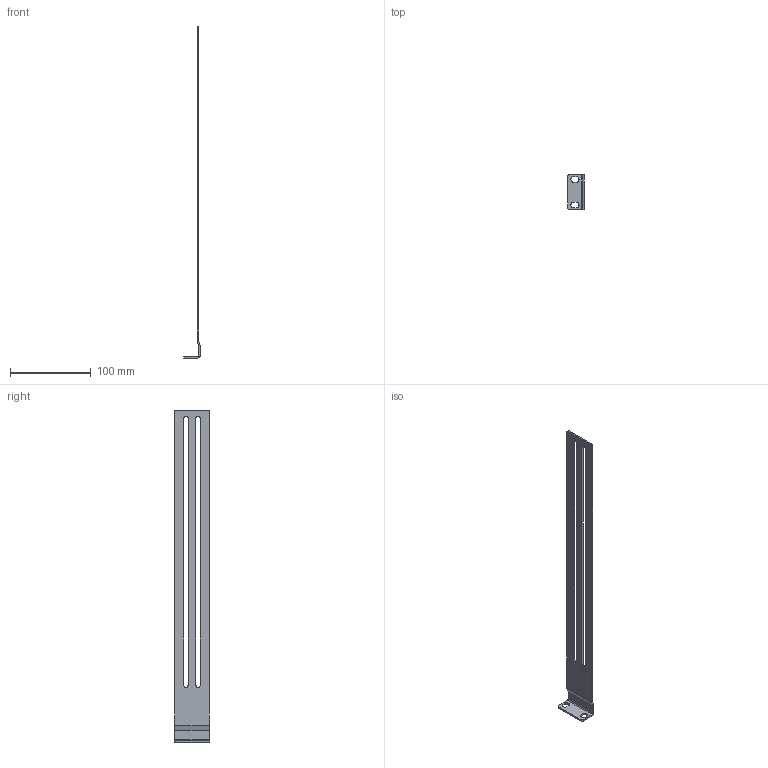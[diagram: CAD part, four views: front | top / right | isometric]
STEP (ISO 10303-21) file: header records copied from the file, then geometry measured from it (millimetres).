
FILE_DESCRIPTION(/* description */ ('','CAx-IF Rec.Pracs.---Representation and Presentation of Product Manufacturing Information (PMI)---4.0---2014-10-13'),/* implementation_level */ '2;1');
FILE_NAME(/* name */ 'E:\CAMTEC_2020_Pack and Go\Subrack_2U\2051047001.stp',/* time_stamp */ '2020-09-21T15:25:36+02:00',/* author */ ('rryba'),/* organization */ (''),/* preprocessor_version */ 'ST-DEVELOPER v18.1',/* originating_system */ 'Autodesk Inventor 2021',/* authorisation */ '');
FILE_SCHEMA (('AP242_MANAGED_MODEL_BASED_3D_ENGINEERING_MIM_LF { 1 0 10303 442 1 1 4 }'));
Length unit declared in the file: millimetre
Products named in the file (1): 2051047001
Bounding box: 20.5 x 43 x 410 mm (x, y, z)
Volume: 29349.1 mm3; surface area: 34042.7 mm2
Topology: 1 solids, 1 shells, 50 faces, 145 edges, 122 vertices
Faces by surface type: plane 32, cylinder 18
Entity records: 1658 total; most frequent: CARTESIAN_POINT 303, DIRECTION 278, ORIENTED_EDGE 240, EDGE_CURVE 120, AXIS2_PLACEMENT_3D 97, LINE 84, VECTOR 84, VERTEX_POINT 72
